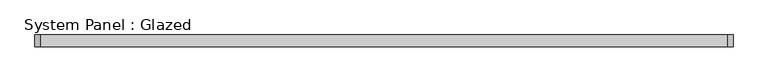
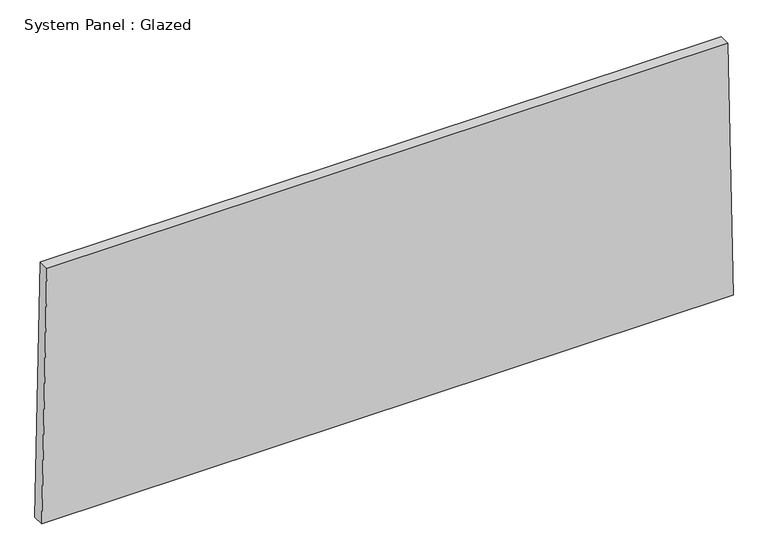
"""IFC4 building model written with IfcOpenShell, lengths in millimetres: plate geometry, System Panel : Glazed."""

from ifc_helpers import new_model, si_unit, frame, origin, place, context, project, spatial, polyline, outline, extrude, source, transform, mapped, element, save


def system_panel_glazed_93969a75(model_context):
    return source(origin(), model_context, "Body", "SweptSolid", [
        extrude(outline(polyline([(0.0, -752.9132634), (0.0, 752.9132634), (584.0841669, 741.5252985), (584.0841669, -741.5252985), (0.0, -752.9132634)])), frame((0.0, 19.05, 0.0), z_axis=(0.0, 1.0, 0.0), x_axis=(0.0, 0.0, 1.0)), (0.0, 0.0, 1.0), 25.4),
    ])


if __name__ == "__main__":
    model = new_model("IFC4")
    model_context = context("Model", 3, world=origin())
    ifc_project = project(units=[si_unit("LENGTHUNIT", "METRE", prefix="MILLI")], contexts=[model_context])
    site = spatial("IfcSite", under=ifc_project)
    building = spatial("IfcBuilding", under=site)
    placement = place(None, origin())
    system_panel_glazed_shape = system_panel_glazed_93969a75(model_context)
    element("IfcPlate", 1, ObjectType="System Panel : Glazed", at=placement, inside=building, context=model_context, shape_type="MappedRepresentation", body=[
        mapped(system_panel_glazed_shape, transform((0.0, 0.0, 0.0), x_axis=(1.0, 0.0, 0.0), y_axis=(0.0, 1.0, 0.0), z_axis=(0.0, 0.0, 1.0))),
    ])
    save(model, "model.ifc")
